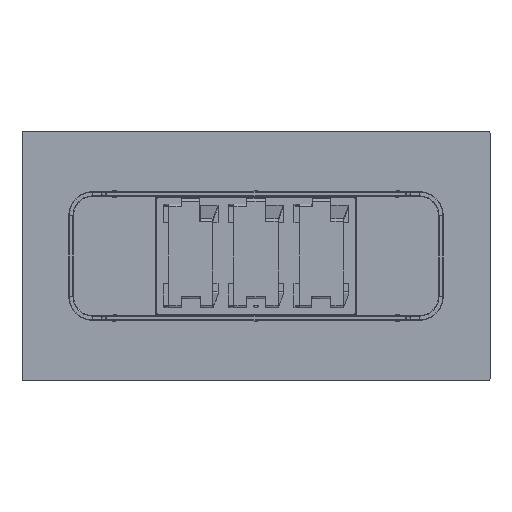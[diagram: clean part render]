
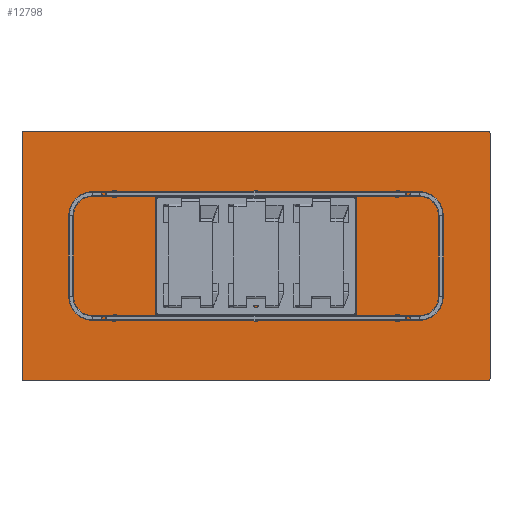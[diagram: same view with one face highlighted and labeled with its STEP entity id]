
A CAD part, front view. The second image highlights one B-rep face of the part: STEP entity #12798.
In plain terms, the highlighted planar face has unit normal (0, -1, 0).
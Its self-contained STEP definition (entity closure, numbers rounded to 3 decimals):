
#109 = DIRECTION ( 'NONE',  ( 0., 1., 0. ) ) ;
#246 = CARTESIAN_POINT ( 'NONE',  ( -995., 0., 525. ) ) ;
#1092 = AXIS2_PLACEMENT_3D ( 'NONE', #6844, #109, #5510 ) ;
#1137 = CARTESIAN_POINT ( 'NONE',  ( -995., 0., -530. ) ) ;
#1439 = PLANE ( 'NONE',  #1092 ) ;
#1450 = CARTESIAN_POINT ( 'NONE',  ( -1000., 0., 530. ) ) ;
#1471 = ORIENTED_EDGE ( 'NONE', *, *, #6038, .F. ) ;
#1705 = AXIS2_PLACEMENT_3D ( 'NONE', #246, #5648, #11070 ) ;
#1764 = CARTESIAN_POINT ( 'NONE',  ( 995., 0., -525. ) ) ;
#1843 = DIRECTION ( 'NONE',  ( 0., 0., 1. ) ) ;
#2225 = EDGE_CURVE ( 'NONE', #14559, #11335, #16164, .T. ) ;
#3432 = VECTOR ( 'NONE', #14925, 1000. ) ;
#3520 = CARTESIAN_POINT ( 'NONE',  ( -995., 0., -525. ) ) ;
#3876 = ORIENTED_EDGE ( 'NONE', *, *, #10548, .T. ) ;
#3967 = VERTEX_POINT ( 'NONE', #4243 ) ;
#4038 = CIRCLE ( 'NONE', #6574, 5. ) ;
#4058 = EDGE_CURVE ( 'NONE', #8977, #11335, #4038, .T. ) ;
#4119 = CARTESIAN_POINT ( 'NONE',  ( -1000., 0., -530. ) ) ;
#4172 = EDGE_CURVE ( 'NONE', #6442, #9479, #15630, .T. ) ;
#4243 = CARTESIAN_POINT ( 'NONE',  ( -1000., 0., 525. ) ) ;
#4878 = AXIS2_PLACEMENT_3D ( 'NONE', #1764, #15311, #1843 ) ;
#5005 = VERTEX_POINT ( 'NONE', #9854 ) ;
#5240 = CARTESIAN_POINT ( 'NONE',  ( 995., 0., 530. ) ) ;
#5380 = ORIENTED_EDGE ( 'NONE', *, *, #4058, .T. ) ;
#5510 = DIRECTION ( 'NONE',  ( 0., 0., 1. ) ) ;
#5648 = DIRECTION ( 'NONE',  ( 0., -1., 0. ) ) ;
#6038 = EDGE_CURVE ( 'NONE', #6442, #14633, #7831, .T. ) ;
#6080 = ORIENTED_EDGE ( 'NONE', *, *, #2225, .F. ) ;
#6112 = CARTESIAN_POINT ( 'NONE',  ( 1000., 0., -530. ) ) ;
#6263 = LINE ( 'NONE', #15830, #8495 ) ;
#6442 = VERTEX_POINT ( 'NONE', #10305 ) ;
#6574 = AXIS2_PLACEMENT_3D ( 'NONE', #11328, #7320, #16466 ) ;
#6844 = CARTESIAN_POINT ( 'NONE',  ( 0., 0., 0. ) ) ;
#7320 = DIRECTION ( 'NONE',  ( 0., -1., 0. ) ) ;
#7586 = CARTESIAN_POINT ( 'NONE',  ( -995., 0., 530. ) ) ;
#7767 = DIRECTION ( 'NONE',  ( 0., -1., 0. ) ) ;
#7831 = LINE ( 'NONE', #4119, #3432 ) ;
#8013 = DIRECTION ( 'NONE',  ( 1., 0., 0. ) ) ;
#8345 = CARTESIAN_POINT ( 'NONE',  ( 1000., 0., -525. ) ) ;
#8358 = EDGE_CURVE ( 'NONE', #8977, #9479, #15615, .T. ) ;
#8495 = VECTOR ( 'NONE', #10337, 1000. ) ;
#8977 = VERTEX_POINT ( 'NONE', #9640 ) ;
#9048 = VECTOR ( 'NONE', #8013, 1000. ) ;
#9479 = VERTEX_POINT ( 'NONE', #8345 ) ;
#9640 = CARTESIAN_POINT ( 'NONE',  ( 1000., 0., 525. ) ) ;
#9854 = CARTESIAN_POINT ( 'NONE',  ( -1000., 0., -525. ) ) ;
#10305 = CARTESIAN_POINT ( 'NONE',  ( 995., 0., -530. ) ) ;
#10337 = DIRECTION ( 'NONE',  ( 0., 0., 1. ) ) ;
#10414 = VECTOR ( 'NONE', #15777, 1000. ) ;
#10487 = CIRCLE ( 'NONE', #1705, 5. ) ;
#10535 = ORIENTED_EDGE ( 'NONE', *, *, #16512, .F. ) ;
#10548 = EDGE_CURVE ( 'NONE', #14559, #3967, #10487, .T. ) ;
#10599 = ORIENTED_EDGE ( 'NONE', *, *, #4172, .T. ) ;
#10682 = EDGE_CURVE ( 'NONE', #5005, #14633, #13862, .T. ) ;
#11070 = DIRECTION ( 'NONE',  ( 0., 0., 1. ) ) ;
#11328 = CARTESIAN_POINT ( 'NONE',  ( 995., 0., 525. ) ) ;
#11335 = VERTEX_POINT ( 'NONE', #5240 ) ;
#11607 = AXIS2_PLACEMENT_3D ( 'NONE', #3520, #7767, #14314 ) ;
#12328 = FACE_OUTER_BOUND ( 'NONE', #13855, .T. ) ;
#12798 = ADVANCED_FACE ( 'NONE', ( #12328 ), #1439, .F. ) ;
#13855 = EDGE_LOOP ( 'NONE', ( #16402, #5380, #6080, #3876, #10535, #16064, #1471, #10599 ) ) ;
#13862 = CIRCLE ( 'NONE', #11607, 5. ) ;
#14314 = DIRECTION ( 'NONE',  ( 0., 0., 1. ) ) ;
#14559 = VERTEX_POINT ( 'NONE', #7586 ) ;
#14633 = VERTEX_POINT ( 'NONE', #1137 ) ;
#14925 = DIRECTION ( 'NONE',  ( -1., 0., 0. ) ) ;
#15311 = DIRECTION ( 'NONE',  ( 0., -1., 0. ) ) ;
#15615 = LINE ( 'NONE', #6112, #10414 ) ;
#15630 = CIRCLE ( 'NONE', #4878, 5. ) ;
#15777 = DIRECTION ( 'NONE',  ( 0., 0., -1. ) ) ;
#15830 = CARTESIAN_POINT ( 'NONE',  ( -1000., 0., -530. ) ) ;
#16064 = ORIENTED_EDGE ( 'NONE', *, *, #10682, .T. ) ;
#16164 = LINE ( 'NONE', #1450, #9048 ) ;
#16402 = ORIENTED_EDGE ( 'NONE', *, *, #8358, .F. ) ;
#16466 = DIRECTION ( 'NONE',  ( 0., 0., 1. ) ) ;
#16512 = EDGE_CURVE ( 'NONE', #5005, #3967, #6263, .T. ) ;
